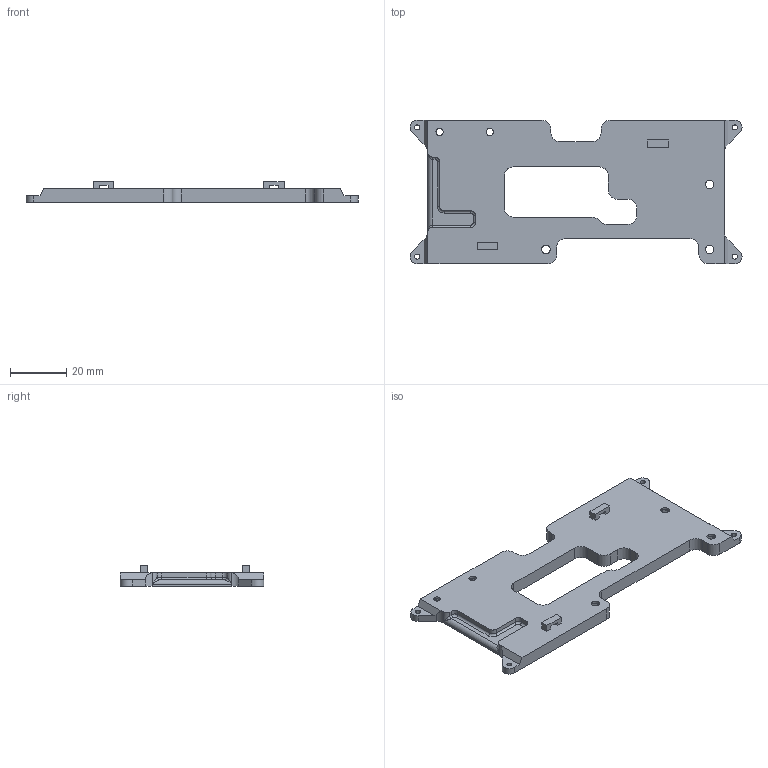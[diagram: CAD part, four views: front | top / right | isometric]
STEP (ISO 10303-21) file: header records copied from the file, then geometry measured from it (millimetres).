
FILE_DESCRIPTION (( 'STEP AP214' ), '1' );
FILE_NAME ('Midframe - Wall Clock V2.STEP', '2022-01-29T17:14:20', ( '' ), ( '' ), 'SwSTEP 2.0', 'SolidWorks 2019', '' );
FILE_SCHEMA (( 'AUTOMOTIVE_DESIGN' ));
Length unit declared in the file: inch
Products named in the file (1): Midframe - Wall Clock V2
Bounding box: 117.59 x 50.8 x 7.3 mm (x, y, z)
Volume: 18760.1 mm3; surface area: 11203.6 mm2
Topology: 1 solids, 1 shells, 190 faces, 519 edges, 334 vertices
Faces by surface type: plane 120, cylinder 64, torus 4, bspline 2
Entity records: 6117 total; most frequent: CARTESIAN_POINT 1148, ORIENTED_EDGE 1034, DIRECTION 1017, EDGE_CURVE 517, VECTOR 379, LINE 379, VERTEX_POINT 334, AXIS2_PLACEMENT_3D 319
